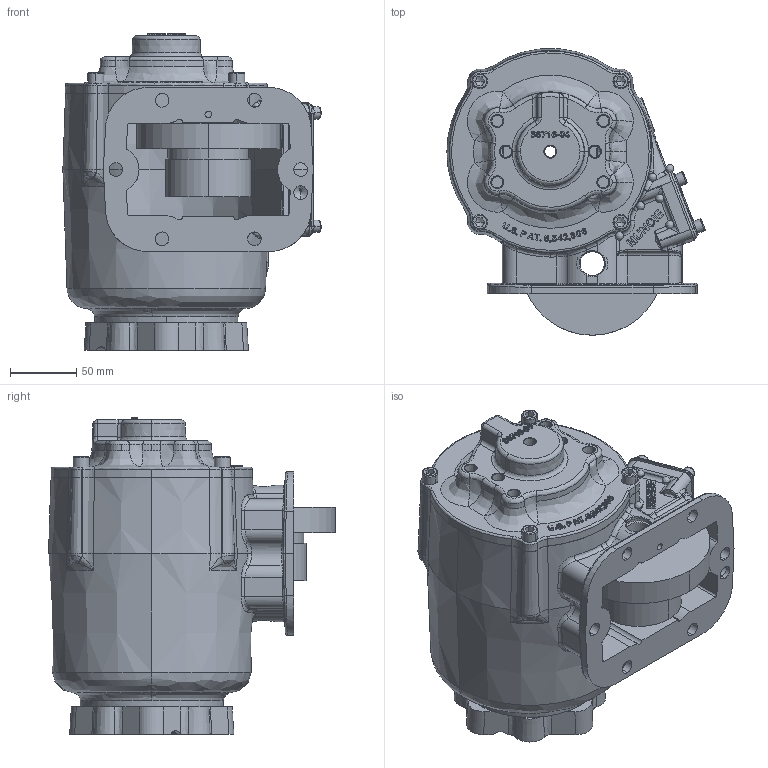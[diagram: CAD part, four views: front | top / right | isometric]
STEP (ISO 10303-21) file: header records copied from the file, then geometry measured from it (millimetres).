
FILE_DESCRIPTION (( 'STEP AP203' ), '1' );
FILE_NAME ('CS6S-XXXXX-X1GX.STEP', '2011-11-29T15:44:25', ( 'User' ), ( 'Muncie Power Products, Inc.' ), 'SwSTEP 2.0', 'SolidWorks 2011', '' );
FILE_SCHEMA (( 'CONFIG_CONTROL_DESIGN' ));
Products named in the file (3): CS6S-XXXXX-X1GX; 14T39137; CS6S-XXXXX-X16X
Assembly tree (2 placements, depth 2):
  CS6S-XXXXX-X1GX
    14T39137
    CS6S-XXXXX-X16X
Bounding box: 195.33 x 216.75 x 239.33 mm (x, y, z)
Volume: 117111.1 mm3; surface area: 385401.9 mm2
Topology: 1 solids, 13 shells, 2066 faces, 5484 edges, 3462 vertices
Faces by surface type: bspline 958, plane 492, cylinder 402, cone 208, torus 6
Entity records: 157663 total; most frequent: CARTESIAN_POINT 114371, ORIENTED_EDGE 10754, DIRECTION 5781, EDGE_CURVE 5378, VERTEX_POINT 3462, B_SPLINE_CURVE_WITH_KNOTS 2459, EDGE_LOOP 2282, ADVANCED_FACE 2066
